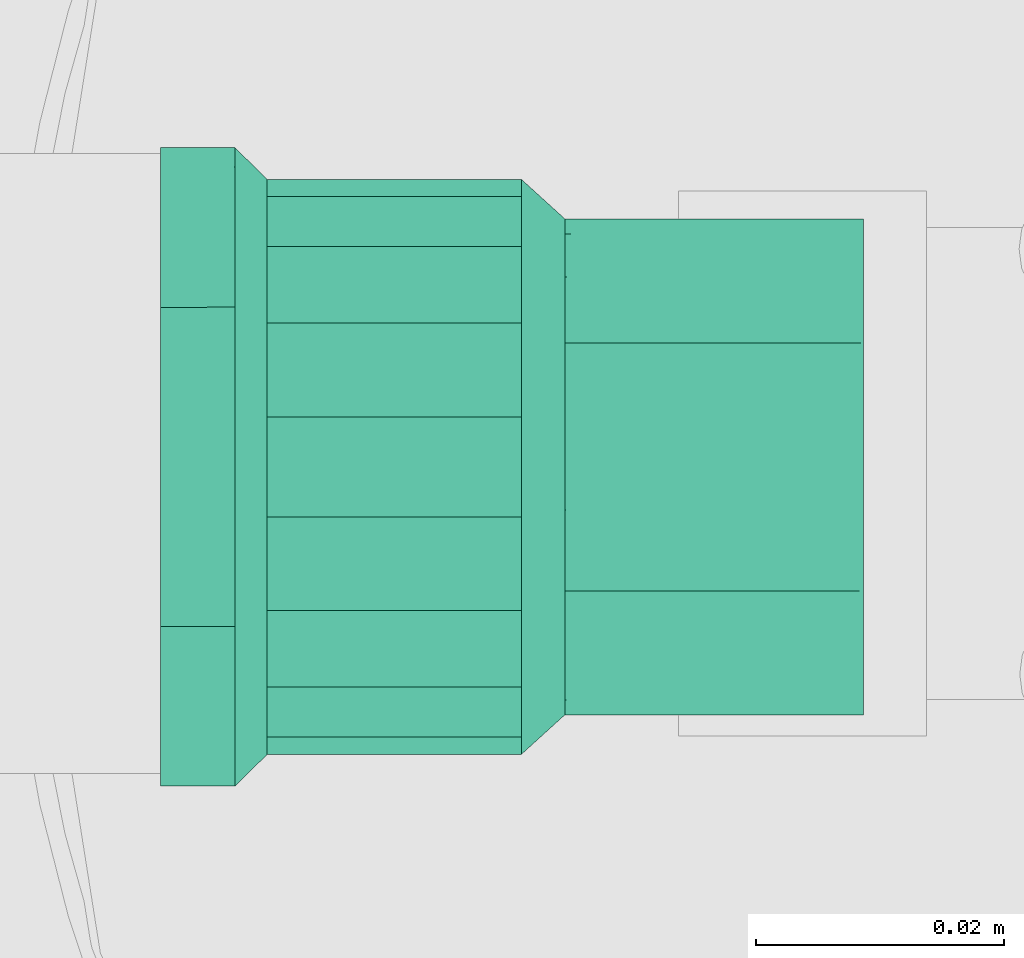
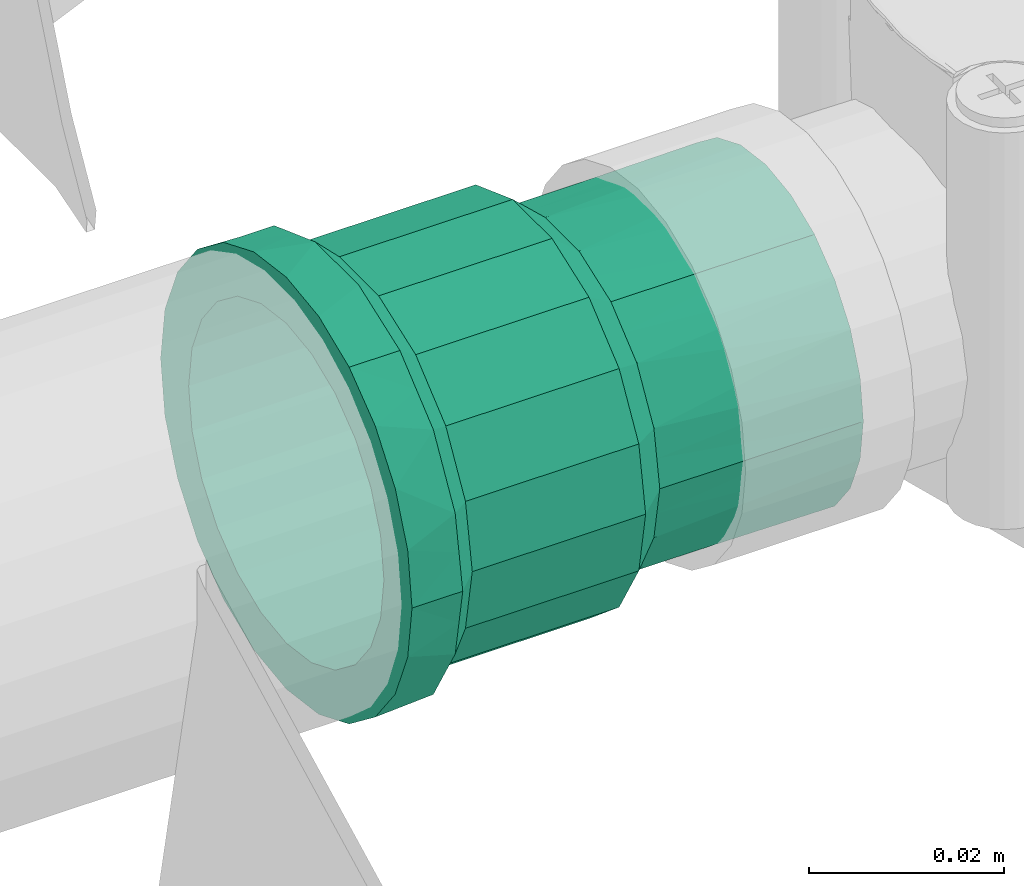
# One storey, part 149 of 166: 1 flow fitting.
"""IFC2X3 building model written with IfcOpenShell, lengths in metres."""

from ifc_helpers import new_model, entity, si_unit, converted_unit, direction, frame, origin, place, context, subcontext, project, spatial, faceted_brep, source, transform, mapped, material, type_object, type_shapes, element, save


model = new_model("IFC2X3")

# Units and contexts
model_context = context("Model", 3, precision=1e-05, world=origin(), true_north=direction((6.123233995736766e-17, 1.0)))
body_context = subcontext(model_context, "Body", "Model", "MODEL_VIEW")
ifc_project = project(units=[si_unit("LENGTHUNIT", "METRE"), converted_unit("PLANEANGLEUNIT", "DEGREE", entity("IfcPlaneAngleMeasure", 0.017453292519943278), si_unit("PLANEANGLEUNIT", "RADIAN"), dimensions=[0, 0, 0, 0, 0, 0, 0]), si_unit("AREAUNIT", "SQUARE_METRE")], contexts=[model_context])

# Site, building, storey
site_placement = place(None, origin())
site = spatial("IfcSite", under=ifc_project, at=site_placement, Name="Default", CompositionType="ELEMENT")
building_placement = place(site_placement, origin())
building = spatial("IfcBuilding", under=site, at=building_placement, Name="CASA DE ACOLHIDA PARA IDOSOS", CompositionType="ELEMENT")
storey_placement = place(building_placement, frame((0.0, 0.0, -1.7499999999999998)))
storey = spatial("IfcBuildingStorey", under=building, at=storey_placement, Name="IMPLANTAÇÃO DRENAGEM", CompositionType="ELEMENT", Elevation=-1.7499999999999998)

# Flow fitting
ifc_material = material(Name="PVC Marrom")
pipe_fitting_type = type_object("IfcPipeFittingType", Name="AF_Soldavel_Adaptador Curto com Bolsa e Rosca:Standard", PredefinedType="NOTDEFINED", material=ifc_material)
shared_shape = source(origin(), body_context, "Body", "Brep", [
    faceted_brep([(0.0, 0.0099999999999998, -0.017320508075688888), (0.0, 0.018207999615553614, -0.018207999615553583), (0.0, 0.012875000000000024, -0.02230015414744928), (0.0, 0.014142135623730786, -0.014142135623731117), (0.0, 0.0051763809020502, -0.019318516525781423), (0.0, 0.022300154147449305, -0.01287499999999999), (0.0, 0.01732050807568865, -0.01000000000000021), (0.0, 0.0193185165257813, -0.005176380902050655), (0.0, 0.02487259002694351, -0.006664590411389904), (0.0, 0.02, 0.0), (0.0, 0.025750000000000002, 0.0), (0.0, 0.019318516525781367, 0.00517638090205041), (0.0, 0.024872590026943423, 0.006664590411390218), (0.0, 0.01732050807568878, 0.00999999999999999), (0.0, 0.02230015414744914, 0.012875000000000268), (0.0, 0.014142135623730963, 0.014142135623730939), (0.0, 0.018207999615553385, 0.018207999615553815), (0.0, 0.010000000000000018, 0.017320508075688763), (0.0, 0.012874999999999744, 0.022300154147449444), (0.0, 0.00517638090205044, 0.01931851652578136), (0.0, 0.006664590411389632, 0.024872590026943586), (0.0, 0.0, 0.02), (0.0, 0.0, 0.025750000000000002), (0.0, -0.005176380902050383, 0.019318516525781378), (0.0, -0.0066645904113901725, 0.024872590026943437), (0.0, -0.009999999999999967, 0.017320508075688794), (0.0, -0.012875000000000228, 0.022300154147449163), (0.0, -0.01414213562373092, 0.014142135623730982), (0.0, -0.01820799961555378, 0.01820799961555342), (0.0, -0.01732050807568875, 0.010000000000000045), (0.0, -0.02230015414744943, 0.012874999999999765), (0.0, -0.024872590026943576, 0.006664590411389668), (0.0, -0.01931851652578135, 0.005176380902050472), (0.0, -0.025750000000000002, 0.0), (0.0, -0.02, 0.0), (0.0, -0.02487259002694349, -0.006664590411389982), (0.0, -0.01931851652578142, -0.005176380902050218), (0.0, -0.02230015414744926, -0.012875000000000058), (0.0, -0.01732050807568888, -0.009999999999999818), (0.0, -0.01820799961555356, -0.018207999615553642), (0.0, -0.014142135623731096, -0.014142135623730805), (0.0, -0.012874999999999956, -0.022300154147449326), (0.0, -0.010000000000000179, -0.01732050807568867), (0.0, -0.006664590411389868, -0.024872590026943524), (0.0, -0.005176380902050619, -0.01931851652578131), (0.0, 0.0, -0.025750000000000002), (0.0, 0.0, -0.02), (0.0, 0.006664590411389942, -0.0248725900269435), (0.005999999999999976, -0.024973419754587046, 0.004403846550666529), (0.005999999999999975, -0.024768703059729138, 0.005564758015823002), (0.005999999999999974, -0.024196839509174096, 0.008807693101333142), (0.005999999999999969, -0.019724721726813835, 0.016552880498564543), (0.005999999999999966, -0.016298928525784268, 0.019427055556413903), (0.005999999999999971, -0.021960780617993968, 0.012680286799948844), (0.005999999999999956, -0.004468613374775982, 0.02535929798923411), (0.00599999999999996, -0.008670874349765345, 0.02383026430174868), (0.0059999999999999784, -0.025750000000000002, 0.0), (0.0059999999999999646, -0.01287313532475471, 0.02230123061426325), (0.005999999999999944, 0.008676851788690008, 0.023828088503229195), (0.00599999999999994, 0.012878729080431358, 0.022298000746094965), (0.005999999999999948, 0.004474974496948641, 0.02535817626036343), (0.005999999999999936, 0.016303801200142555, 0.019422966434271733), (0.005999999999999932, 0.019728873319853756, 0.016547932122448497), (0.005999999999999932, 0.024199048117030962, 0.008801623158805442), (0.0059999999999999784, 0.025750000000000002, 0.0), (0.005999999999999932, 0.021963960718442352, 0.012674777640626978), (0.0059999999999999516, 3.180561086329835e-06, 0.02535873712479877), (0.006000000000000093, 0.024199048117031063, -0.00880162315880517), (0.006000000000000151, 0.019728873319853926, -0.016547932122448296), (0.006000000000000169, 0.01630380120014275, -0.019422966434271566), (0.006000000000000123, 0.021963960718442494, -0.012674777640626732), (0.006000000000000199, 0.004474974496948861, -0.025358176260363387), (0.006000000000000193, 0.008676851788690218, -0.023828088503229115), (0.006000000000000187, 0.012878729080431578, -0.02229800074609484), (0.006000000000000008, -0.02497341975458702, -0.004403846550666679), (0.006000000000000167, -0.008670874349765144, -0.023830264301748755), (0.0060000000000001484, -0.012873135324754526, -0.022301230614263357), (0.006000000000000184, -0.004468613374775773, -0.02535929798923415), (0.006000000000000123, -0.016298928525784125, -0.019427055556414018), (0.006000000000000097, -0.01972472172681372, -0.016552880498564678), (0.006000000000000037, -0.024196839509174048, -0.008807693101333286), (0.006000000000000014, -0.024768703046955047, -0.005564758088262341), (0.006000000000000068, -0.021960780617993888, -0.012680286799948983), (0.006000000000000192, 3.1805610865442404e-06, -0.02535873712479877), (0.029099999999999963, -0.021800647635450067, 0.007935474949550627), (0.008600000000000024, -0.021800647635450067, 0.007935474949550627), (0.008600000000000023, -0.022500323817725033, 0.0039677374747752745), (0.00860000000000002, -0.023200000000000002, 0.0), (0.02910000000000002, -0.023200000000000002, 0.0), (0.02909999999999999, -0.022482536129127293, 0.004068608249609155), (0.02909999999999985, -0.011598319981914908, 0.020092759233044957), (0.00860000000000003, -0.011598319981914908, 0.020092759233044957), (0.00860000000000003, -0.014684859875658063, 0.017503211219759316), (0.008600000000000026, -0.017771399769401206, 0.014913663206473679), (0.029099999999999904, -0.017771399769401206, 0.014913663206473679), (0.02909999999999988, -0.014684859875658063, 0.017503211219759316), (0.008600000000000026, -0.019786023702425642, 0.011424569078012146), (0.02909999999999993, -0.019786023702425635, 0.01142456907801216), (0.00860000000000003, -0.007812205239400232, 0.02147037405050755), (0.02909999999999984, -0.007812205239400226, 0.021470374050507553), (0.029099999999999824, -0.004026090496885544, 0.02284798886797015), (0.00860000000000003, -0.004026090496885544, 0.02284798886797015), (0.00860000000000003, 2.8655929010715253e-06, 0.022847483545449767), (0.029099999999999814, 2.8655929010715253e-06, 0.022847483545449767), (0.029099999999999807, 0.004031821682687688, 0.022846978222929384), (0.00860000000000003, 0.004031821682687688, 0.022846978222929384), (0.029099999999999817, 0.011603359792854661, 0.020089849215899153), (0.00860000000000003, 0.011603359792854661, 0.020089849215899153), (0.00860000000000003, 0.007817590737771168, 0.021468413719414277), (0.029099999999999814, 0.007817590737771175, 0.021468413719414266), (0.029099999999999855, 0.017775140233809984, 0.014909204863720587), (0.00860000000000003, 0.017775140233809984, 0.014909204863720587), (0.00860000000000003, 0.01468925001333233, 0.017499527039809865), (0.02909999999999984, 0.014689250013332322, 0.01749952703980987), (0.02909999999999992, 0.021802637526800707, 0.00793000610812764), (0.008600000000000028, 0.021802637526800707, 0.00793000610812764), (0.00860000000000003, 0.019788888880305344, 0.01141960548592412), (0.02909999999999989, 0.019788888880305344, 0.011419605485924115), (0.02910000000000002, 0.023200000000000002, 0.0), (0.00860000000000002, 0.023200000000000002, 0.0), (0.029100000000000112, 0.021802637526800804, -0.007930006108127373), (0.008600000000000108, 0.021802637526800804, -0.007930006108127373), (0.00860000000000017, -0.011598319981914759, -0.020092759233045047), (0.02910000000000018, -0.011598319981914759, -0.020092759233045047), (0.02910000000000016, -0.01468485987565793, -0.017503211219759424), (0.029100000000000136, -0.0177713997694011, -0.014913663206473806), (0.008600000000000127, -0.0177713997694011, -0.014913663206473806), (0.00860000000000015, -0.01468485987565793, -0.017503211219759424), (0.0086000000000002, 0.01160335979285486, -0.020089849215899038), (0.00860000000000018, 0.014689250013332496, -0.017499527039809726), (0.008600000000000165, 0.017775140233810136, -0.014909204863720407), (0.02910000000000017, 0.017775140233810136, -0.014909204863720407), (0.029100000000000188, 0.014689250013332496, -0.017499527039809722), (0.02910000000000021, 0.01160335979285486, -0.020089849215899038), (0.029100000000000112, -0.01978602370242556, -0.011424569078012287), (0.02910000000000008, -0.021800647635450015, -0.007935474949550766), (0.008600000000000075, -0.021800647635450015, -0.007935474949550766), (0.0086000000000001, -0.01978602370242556, -0.011424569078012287), (0.008600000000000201, -0.004026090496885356, -0.022847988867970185), (0.029100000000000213, -0.004026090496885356, -0.022847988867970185), (0.029100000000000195, -0.007812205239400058, -0.021470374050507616), (0.008600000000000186, -0.007812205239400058, -0.021470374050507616), (0.008600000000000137, 0.019788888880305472, -0.01141960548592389), (0.029100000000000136, 0.01978888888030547, -0.01141960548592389), (0.008600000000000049, -0.02250032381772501, -0.00396773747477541), (0.029100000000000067, -0.022258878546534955, -0.005336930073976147), (0.029100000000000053, -0.02248253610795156, -0.004068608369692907), (0.008600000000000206, 0.00781759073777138, -0.02146841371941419), (0.029100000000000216, 0.00781759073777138, -0.02146841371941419), (0.029100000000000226, 0.0040318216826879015, -0.022846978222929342), (0.008600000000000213, 0.0040318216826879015, -0.022846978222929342), (0.008600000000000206, 2.8655929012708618e-06, -0.022847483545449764), (0.02910000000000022, 2.8655929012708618e-06, -0.022847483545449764), (0.056699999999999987, 0.0, -0.02), (0.056699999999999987, 0.00517638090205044, -0.01931851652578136), (0.056699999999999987, 0.010000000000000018, -0.017320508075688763), (0.056699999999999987, 0.014142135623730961, -0.01414213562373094), (0.056699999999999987, 0.01732050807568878, -0.009999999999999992), (0.056699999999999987, 0.019318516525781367, -0.00517638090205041), (0.056699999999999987, 0.02, 0.0), (0.056699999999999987, 0.0193185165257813, 0.005176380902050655), (0.056699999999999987, 0.01732050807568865, 0.01000000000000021), (0.056699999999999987, 0.014142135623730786, 0.014142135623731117), (0.056699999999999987, 0.0099999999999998, 0.017320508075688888), (0.056699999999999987, 0.0051763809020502, 0.019318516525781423), (0.056699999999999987, 0.0, 0.02), (0.056699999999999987, -0.005176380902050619, 0.01931851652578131), (0.056699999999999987, -0.010000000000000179, 0.01732050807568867), (0.056699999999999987, -0.014142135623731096, 0.014142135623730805), (0.056699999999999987, -0.01732050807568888, 0.009999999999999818), (0.056699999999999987, -0.01931851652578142, 0.005176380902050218), (0.056699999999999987, -0.02, 0.0), (0.056699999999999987, -0.01931851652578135, -0.005176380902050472), (0.056699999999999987, -0.01732050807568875, -0.010000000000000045), (0.056699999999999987, -0.01414213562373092, -0.014142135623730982), (0.056699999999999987, -0.009999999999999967, -0.017320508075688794), (0.056699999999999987, -0.005176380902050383, -0.019318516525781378), (0.03261999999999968, -0.0067346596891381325, 0.018508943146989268), (0.03261999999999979, -0.015320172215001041, 0.012856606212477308), (0.03261999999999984, -0.017056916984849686, 0.0098487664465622), (0.032619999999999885, -0.01879366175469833, 0.006840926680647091), (0.032619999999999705, -0.009998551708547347, 0.01732134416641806), (0.032619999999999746, -0.012659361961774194, 0.015088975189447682), (0.03261999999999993, -0.019188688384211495, 0.004600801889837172), (0.032619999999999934, -0.01939683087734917, 0.0034204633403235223), (0.03261999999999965, -0.0034707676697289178, 0.019696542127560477), (0.03261999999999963, 0.0034757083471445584, 0.019695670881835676), (0.032619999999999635, 2.470338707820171e-06, 0.019696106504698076), (0.03261999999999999, -0.02, 0.0), (0.032619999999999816, 0.01879537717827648, 0.006836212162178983), (0.03261999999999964, 0.006739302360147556, 0.018507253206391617), (0.03261999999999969, 0.012663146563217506, 0.0150857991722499), (0.032619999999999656, 0.010002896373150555, 0.017318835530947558), (0.03261999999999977, 0.01705938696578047, 0.009844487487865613), (0.03261999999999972, 0.015323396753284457, 0.012852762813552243), (0.03261999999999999, 0.02, 0.0), (0.03262000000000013, 0.015323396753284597, -0.012852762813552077), (0.0326200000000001, 0.017059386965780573, -0.009844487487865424), (0.03262000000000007, 0.018795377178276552, -0.006836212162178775), (0.032620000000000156, 0.010002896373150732, -0.017318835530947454), (0.03262000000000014, 0.012663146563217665, -0.015085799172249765), (0.03262000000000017, 0.0034757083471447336, -0.019695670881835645), (0.03262000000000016, 0.006739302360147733, -0.01850725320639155), (0.032620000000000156, -0.0034707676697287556, -0.019696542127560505), (0.03262000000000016, 2.4703387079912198e-06, -0.019696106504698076), (0.03262000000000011, -0.012659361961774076, -0.015088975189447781), (0.032620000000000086, -0.015320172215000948, -0.01285660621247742), (0.03262000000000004, -0.018793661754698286, -0.006840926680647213), (0.03262000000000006, -0.01705691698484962, -0.009848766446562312), (0.03262000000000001, -0.01939683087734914, -0.0034204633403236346), (0.03262000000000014, -0.006734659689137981, -0.018508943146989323), (0.03262000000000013, -0.009998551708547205, -0.017321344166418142), (0.00860000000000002, -0.02, 0.0), (0.02910000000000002, -0.02, 0.0), (0.02910000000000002, -0.019318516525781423, -0.005176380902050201), (0.00860000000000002, -0.019318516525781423, -0.005176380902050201), (0.0059999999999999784, -0.019318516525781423, -0.005176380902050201), (0.0059999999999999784, -0.02, 0.0), (0.02910000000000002, -0.017320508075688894, -0.009999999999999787), (0.00860000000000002, -0.017320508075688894, -0.009999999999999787), (0.0059999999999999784, -0.017320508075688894, -0.009999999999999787), (0.00860000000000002, -0.010000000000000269, -0.017320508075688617), (0.0059999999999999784, -0.010000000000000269, -0.017320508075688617), (0.0059999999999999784, -0.014142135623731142, -0.01414213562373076), (0.00860000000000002, -0.014142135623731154, -0.014142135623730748), (0.02910000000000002, -0.014142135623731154, -0.014142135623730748), (0.02910000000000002, -0.010000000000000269, -0.017320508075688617), (0.00860000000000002, -0.005176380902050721, -0.019318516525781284), (0.0059999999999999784, -0.005176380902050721, -0.019318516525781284), (0.02910000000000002, -0.005176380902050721, -0.019318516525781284), (0.02910000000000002, 0.0, -0.02), (0.00860000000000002, 0.0, -0.02), (0.0059999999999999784, 0.0, -0.02), (0.02910000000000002, 0.005176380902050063, -0.01931851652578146), (0.00860000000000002, 0.005176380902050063, -0.01931851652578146), (0.0059999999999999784, 0.005176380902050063, -0.01931851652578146), (0.02910000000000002, 0.009999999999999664, -0.017320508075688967), (0.00860000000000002, 0.009999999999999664, -0.017320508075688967), (0.0059999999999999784, 0.009999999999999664, -0.017320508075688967), (0.00860000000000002, 0.017320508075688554, -0.010000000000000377), (0.0059999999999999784, 0.017320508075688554, -0.010000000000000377), (0.0059999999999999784, 0.01414213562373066, -0.014142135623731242), (0.00860000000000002, 0.014142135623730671, -0.01414213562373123), (0.02910000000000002, 0.014142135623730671, -0.01414213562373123), (0.02910000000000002, 0.017320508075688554, -0.010000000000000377), (0.00860000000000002, 0.019318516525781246, -0.00517638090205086), (0.0059999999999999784, 0.019318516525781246, -0.00517638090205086), (0.02910000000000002, 0.019318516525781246, -0.00517638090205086), (0.02910000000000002, 0.02, 0.0), (0.00860000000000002, 0.02, 0.0), (0.0059999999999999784, 0.02, 0.0), (0.02910000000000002, 0.01931851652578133, 0.005176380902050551), (0.00860000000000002, 0.01931851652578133, 0.005176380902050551), (0.0059999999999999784, 0.01931851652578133, 0.005176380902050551), (0.02910000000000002, 0.017320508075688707, 0.010000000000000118), (0.00860000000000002, 0.017320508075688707, 0.010000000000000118), (0.0059999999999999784, 0.017320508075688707, 0.010000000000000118), (0.00860000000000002, 0.009999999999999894, 0.017320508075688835), (0.0059999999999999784, 0.009999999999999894, 0.017320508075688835), (0.0059999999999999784, 0.014142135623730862, 0.014142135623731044), (0.00860000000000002, 0.014142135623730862, 0.014142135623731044), (0.02910000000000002, 0.014142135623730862, 0.014142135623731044), (0.02910000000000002, 0.009999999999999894, 0.017320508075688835), (0.00860000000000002, 0.005176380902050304, 0.019318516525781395), (0.0059999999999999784, 0.005176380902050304, 0.019318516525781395), (0.02910000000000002, 0.005176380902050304, 0.019318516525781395), (0.02910000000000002, 0.0, 0.02), (0.00860000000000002, 0.0, 0.02), (0.0059999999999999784, 0.0, 0.02), (0.02910000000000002, -0.005176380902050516, 0.01931851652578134), (0.00860000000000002, -0.005176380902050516, 0.01931851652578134), (0.0059999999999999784, -0.005176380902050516, 0.01931851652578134), (0.00860000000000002, -0.019318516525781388, 0.005176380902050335), (0.0059999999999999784, -0.019318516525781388, 0.005176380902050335), (0.0059999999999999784, -0.017320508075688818, 0.009999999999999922), (0.00860000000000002, -0.017320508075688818, 0.009999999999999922), (0.02910000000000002, -0.017320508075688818, 0.009999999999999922), (0.02910000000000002, -0.019318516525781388, 0.005176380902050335), (0.00860000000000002, -0.014142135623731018, 0.014142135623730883), (0.02910000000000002, -0.014142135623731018, 0.014142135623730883), (0.0059999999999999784, -0.014142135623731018, 0.014142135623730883), (0.02910000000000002, -0.010000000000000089, 0.017320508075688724), (0.00860000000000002, -0.010000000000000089, 0.017320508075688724), (0.0059999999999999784, -0.010000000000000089, 0.017320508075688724)], [[[0, 1, 2]], [[3, 1, 0]], [[4, 0, 2]], [[1, 3, 5]], [[5, 3, 6]], [[5, 6, 7]], [[8, 5, 7]], [[9, 8, 7]], [[10, 8, 9]], [[10, 9, 11]], [[12, 10, 11]], [[12, 11, 13]], [[14, 12, 13]], [[14, 13, 15]], [[15, 16, 14]], [[15, 17, 16]], [[18, 16, 17]], [[19, 18, 17]], [[18, 19, 20]], [[21, 20, 19]], [[22, 20, 21]], [[21, 23, 22]], [[24, 22, 23]], [[25, 24, 23]], [[24, 25, 26]], [[25, 27, 26]], [[27, 28, 26]], [[28, 27, 29]], [[28, 29, 30]], [[30, 29, 31]], [[31, 29, 32]], [[33, 31, 32]], [[32, 34, 33]], [[33, 34, 35]], [[34, 36, 35]], [[37, 35, 36]], [[37, 36, 38]], [[39, 37, 38]], [[40, 39, 38]], [[40, 41, 39]], [[42, 41, 40]], [[43, 41, 42]], [[42, 44, 43]], [[43, 44, 45]], [[44, 46, 45]], [[46, 4, 47]], [[45, 46, 47]], [[2, 47, 4]], [[31, 48, 49, 50]], [[28, 51, 52]], [[51, 30, 50, 53]], [[54, 24, 55]], [[30, 31, 50]], [[56, 48, 33]], [[52, 57, 26]], [[52, 26, 28]], [[30, 51, 28]], [[58, 59, 18]], [[58, 18, 20]], [[26, 57, 55]], [[26, 55, 24]], [[22, 24, 54]], [[33, 48, 31]], [[20, 60, 58]], [[16, 61, 62]], [[12, 63, 64]], [[63, 14, 62, 65]], [[12, 64, 10]], [[18, 61, 16]], [[22, 54, 66, 60]], [[22, 60, 20]], [[14, 16, 62]], [[59, 61, 18]], [[14, 63, 12]], [[8, 64, 67]], [[1, 68, 69]], [[68, 5, 67, 70]], [[71, 47, 72]], [[5, 8, 67]], [[8, 10, 64]], [[2, 72, 47]], [[69, 73, 2]], [[5, 68, 1]], [[74, 33, 35]], [[75, 76, 41]], [[2, 73, 72]], [[75, 41, 43]], [[45, 47, 71]], [[69, 2, 1]], [[43, 77, 75]], [[39, 78, 79]], [[35, 80, 81, 74]], [[80, 37, 79, 82]], [[37, 80, 35]], [[41, 78, 39]], [[45, 71, 83, 77]], [[45, 77, 43]], [[37, 39, 79]], [[76, 78, 41]], [[74, 56, 33]], [[84, 85, 86, 87, 88, 89]], [[90, 91, 92, 93, 94, 95]], [[96, 85, 84, 97, 94, 93]], [[98, 91, 90, 99, 100, 101]], [[102, 101, 100, 103, 104, 105]], [[106, 107, 108, 105, 104, 109]], [[110, 111, 112, 107, 106, 113]], [[114, 115, 116, 111, 110, 117]], [[114, 118, 119, 115]], [[119, 118, 120, 121]], [[122, 123, 124, 125, 126, 127]], [[128, 129, 130, 131, 132, 133]], [[134, 135, 136, 137, 126, 125]], [[138, 139, 140, 123, 122, 141]], [[142, 121, 120, 143, 131, 130]], [[88, 87, 144, 136, 135, 145, 146]], [[147, 128, 133, 148, 149, 150]], [[151, 150, 149, 152, 139, 138]], [[153, 154, 155, 156, 157, 158, 159, 160, 161, 162, 163, 164, 165, 166, 167, 168, 169, 170, 171, 172, 173, 174, 175, 176]], [[177, 167, 166]], [[169, 168, 178]], [[169, 178, 179, 180]], [[181, 182, 167]], [[170, 180, 183, 184]], [[166, 185, 177]], [[178, 168, 182]], [[165, 186, 187, 185]], [[167, 182, 168]], [[184, 171, 170]], [[184, 188, 171]], [[169, 180, 170]], [[164, 186, 165]], [[161, 160, 189]], [[163, 190, 164]], [[191, 192, 163]], [[161, 189, 193, 194]], [[195, 160, 159]], [[190, 186, 164]], [[163, 192, 190]], [[161, 194, 162]], [[177, 181, 167]], [[162, 194, 191]], [[191, 163, 162]], [[160, 195, 189]], [[165, 185, 166]], [[195, 159, 158]], [[157, 156, 196]], [[157, 196, 197, 198]], [[199, 200, 155]], [[198, 195, 158]], [[154, 201, 202]], [[196, 156, 200]], [[153, 203, 204, 201]], [[153, 201, 154]], [[155, 200, 156]], [[205, 175, 174]], [[202, 155, 154]], [[202, 199, 155]], [[173, 206, 174]], [[157, 198, 158]], [[173, 172, 207]], [[173, 207, 208, 206]], [[171, 209, 172]], [[171, 188, 209]], [[176, 210, 203]], [[203, 153, 176]], [[211, 210, 175]], [[175, 210, 176]], [[174, 206, 205]], [[209, 207, 172]], [[205, 211, 175]], [[212, 213, 214, 215, 216, 36, 34, 217]], [[215, 214, 218, 219, 220, 38, 36, 216]], [[221, 222, 42, 40, 223, 224, 225, 226]], [[225, 224, 223, 40, 38, 220, 219, 218]], [[227, 228, 44, 42, 222, 221, 226, 229]], [[227, 229, 230, 231, 232, 46, 44, 228]], [[231, 230, 233, 234, 235, 4, 46, 232]], [[234, 233, 236, 237, 238, 0, 4, 235]], [[239, 240, 6, 3, 241, 242, 243, 244]], [[243, 242, 241, 3, 0, 238, 237, 236]], [[245, 246, 7, 6, 240, 239, 244, 247]], [[247, 248, 249, 250, 9, 7, 246, 245]], [[249, 248, 251, 252, 253, 11, 9, 250]], [[252, 251, 254, 255, 256, 13, 11, 253]], [[257, 258, 17, 15, 259, 260, 261, 262]], [[261, 260, 259, 15, 13, 256, 255, 254]], [[263, 264, 19, 17, 258, 257, 262, 265]], [[263, 265, 266, 267, 268, 21, 19, 264]], [[269, 270, 271, 23, 21, 268, 267, 266]], [[272, 273, 32, 29, 274, 275, 276, 277]], [[278, 279, 276, 275, 274, 29, 27, 280]], [[212, 217, 34, 32, 273, 272, 277, 213]], [[281, 282, 283, 25, 23, 271, 270, 269]], [[279, 278, 280, 27, 25, 283, 282, 281]], [[119, 121, 67, 64]], [[128, 73, 69, 68, 130, 129]], [[73, 128, 147, 150, 71, 72]], [[130, 68, 70, 67, 121, 142]], [[77, 138, 141, 122, 76, 75]], [[136, 80, 82, 79, 126, 137]], [[81, 80, 136, 144, 87, 56, 74]], [[83, 71, 150, 151, 138, 77]], [[78, 76, 122, 127, 126, 79]], [[85, 50, 49, 48, 56, 87, 86]], [[53, 50, 85, 96, 93, 51]], [[52, 51, 93, 92, 91, 57]], [[91, 98, 101, 54, 55, 57]], [[102, 105, 60, 66, 54, 101]], [[108, 107, 59, 58, 60, 105]], [[115, 119, 64, 63]], [[111, 116, 115, 63, 65, 62]], [[107, 112, 111, 62, 61, 59]], [[230, 229, 226, 225, 218, 214, 213, 277, 276, 279, 281, 269, 266, 265, 262, 261, 254, 251, 248, 247, 244, 243, 236, 233]], [[84, 89, 88, 188, 184, 183, 180]], [[185, 100, 99, 90, 181, 177]], [[95, 94, 178, 182, 181, 90]], [[97, 84, 180, 179, 178, 94]], [[100, 185, 187, 186, 104, 103]], [[189, 114, 117, 110, 194, 193]], [[104, 186, 190, 192, 106, 109]], [[189, 195, 118, 114]], [[113, 106, 192, 191, 194, 110]], [[195, 198, 120, 118]], [[133, 199, 202, 201, 149, 148]], [[199, 133, 132, 131, 196, 200]], [[143, 120, 198, 197, 196, 131]], [[139, 203, 210, 211, 123, 140]], [[207, 135, 134, 125, 206, 208]], [[145, 135, 207, 209, 188, 88, 146]], [[152, 149, 201, 204, 203, 139]], [[124, 123, 211, 205, 206, 125]]]),
])
type_shapes(pipe_fitting_type, [shared_shape])
flow_fitting_placement = place(storey_placement, frame((-49.25616936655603, 36.05467133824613, -0.20000000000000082)))
element("IfcFlowFitting", 1, at=flow_fitting_placement, inside=storey, type_object=pipe_fitting_type, material=ifc_material, Name="AF_Soldavel_Adaptador Curto com Bolsa e Rosca:Standard", ObjectType="AF_Soldavel_Adaptador Curto com Bolsa e Rosca:Standard", context=body_context, shape_type="MappedRepresentation", body=[
    mapped(shared_shape, transform((0.0, 0.0, 0.0), scale=1.0)),
])

save(model, "model.ifc")
